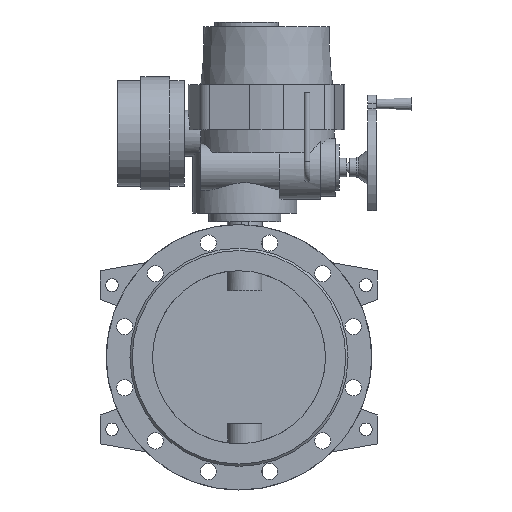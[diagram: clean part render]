
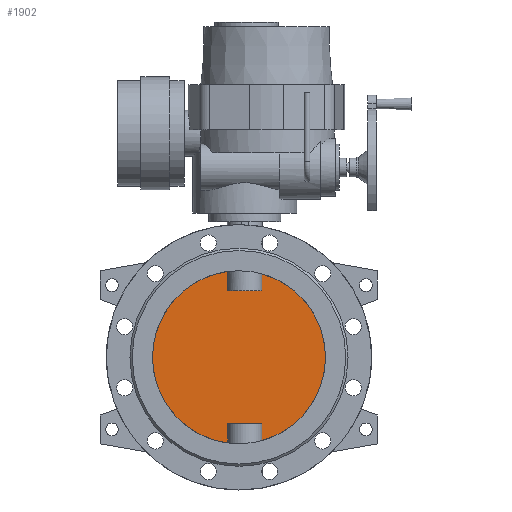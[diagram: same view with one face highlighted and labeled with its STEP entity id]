
A CAD part, front view. The second image highlights one B-rep face of the part: STEP entity #1902.
In plain terms, the highlighted planar face has unit normal (0, -1, 0).
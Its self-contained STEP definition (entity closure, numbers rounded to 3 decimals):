
#1902=ADVANCED_FACE('',(#3964),#3966,.F.);
#3964=FACE_BOUND('',#3965,.T.);
#3965=EDGE_LOOP('',(#5155,#5156,#5157,#5158,#5159,#5160,#5161,#5162));
#3966=PLANE('',#3967);
#3967=AXIS2_PLACEMENT_3D('',#3968,#3969,#3970);
#3968=CARTESIAN_POINT('',(0.,-5.,0.));
#3969=DIRECTION('',(0.,1.,0.));
#3970=DIRECTION('',(1.,0.,0.));
#5155=ORIENTED_EDGE('',*,*,#5760,.T.);
#5156=ORIENTED_EDGE('',*,*,#5767,.T.);
#5157=ORIENTED_EDGE('',*,*,#5768,.T.);
#5158=ORIENTED_EDGE('',*,*,#5769,.T.);
#5159=ORIENTED_EDGE('',*,*,#5762,.T.);
#5160=ORIENTED_EDGE('',*,*,#5770,.T.);
#5161=ORIENTED_EDGE('',*,*,#5771,.T.);
#5162=ORIENTED_EDGE('',*,*,#5772,.T.);
#5760=EDGE_CURVE('',#6639,#6640,#6641,.F.);
#5762=EDGE_CURVE('',#6644,#6642,#6645,.F.);
#5767=EDGE_CURVE('',#6640,#6653,#6654,.T.);
#5768=EDGE_CURVE('',#6653,#6655,#6656,.F.);
#5769=EDGE_CURVE('',#6655,#6644,#6657,.F.);
#5770=EDGE_CURVE('',#6642,#6658,#6659,.F.);
#5771=EDGE_CURVE('',#6658,#6660,#6661,.F.);
#5772=EDGE_CURVE('',#6660,#6639,#6662,.T.);
#6639=VERTEX_POINT('',#10115);
#6640=VERTEX_POINT('',#10116);
#6641=CIRCLE('',#10117,150.);
#6642=VERTEX_POINT('',#10121);
#6644=VERTEX_POINT('',#10227);
#6645=CIRCLE('',#10228,150.);
#6653=VERTEX_POINT('',#10364);
#6654=LINE('',#10365,#10366);
#6655=VERTEX_POINT('',#10368);
#6656=LINE('',#10369,#10370);
#6657=LINE('',#10372,#10373);
#6658=VERTEX_POINT('',#10375);
#6659=LINE('',#10376,#10377);
#6660=VERTEX_POINT('',#10379);
#6661=LINE('',#10380,#10381);
#6662=LINE('',#10383,#10384);
#10115=CARTESIAN_POINT('',(39.58,-5.,-144.684));
#10116=CARTESIAN_POINT('',(39.58,-5.,144.684));
#10117=AXIS2_PLACEMENT_3D('',#10118,#10119,#10120);
#10118=CARTESIAN_POINT('',(0.,-5.,0.));
#10119=DIRECTION('',(0.,1.,0.));
#10120=DIRECTION('',(0.264,0.,0.965));
#10121=CARTESIAN_POINT('',(-19.58,-5.,-148.717));
#10227=CARTESIAN_POINT('',(-19.58,-5.,148.717));
#10228=AXIS2_PLACEMENT_3D('',#10229,#10230,#10231);
#10229=CARTESIAN_POINT('',(0.,-5.,0.));
#10230=DIRECTION('',(0.,1.,0.));
#10231=DIRECTION('',(-0.131,0.,-0.991));
#10364=CARTESIAN_POINT('',(39.58,-5.,115.));
#10365=CARTESIAN_POINT('',(39.58,-5.,144.684));
#10366=VECTOR('',#10367,1.);
#10367=DIRECTION('',(0.,0.,-1.));
#10368=CARTESIAN_POINT('',(-19.58,-5.,115.));
#10369=CARTESIAN_POINT('',(-19.58,-5.,115.));
#10370=VECTOR('',#10371,1.);
#10371=DIRECTION('',(1.,0.,0.));
#10372=CARTESIAN_POINT('',(-19.58,-5.,148.717));
#10373=VECTOR('',#10374,1.);
#10374=DIRECTION('',(0.,0.,-1.));
#10375=CARTESIAN_POINT('',(-19.58,-5.,-115.));
#10376=CARTESIAN_POINT('',(-19.58,-5.,-115.));
#10377=VECTOR('',#10378,1.);
#10378=DIRECTION('',(0.,0.,-1.));
#10379=CARTESIAN_POINT('',(39.58,-5.,-115.));
#10380=CARTESIAN_POINT('',(39.58,-5.,-115.));
#10381=VECTOR('',#10382,1.);
#10382=DIRECTION('',(-1.,0.,0.));
#10383=CARTESIAN_POINT('',(39.58,-5.,-115.));
#10384=VECTOR('',#10385,1.);
#10385=DIRECTION('',(0.,0.,-1.));
